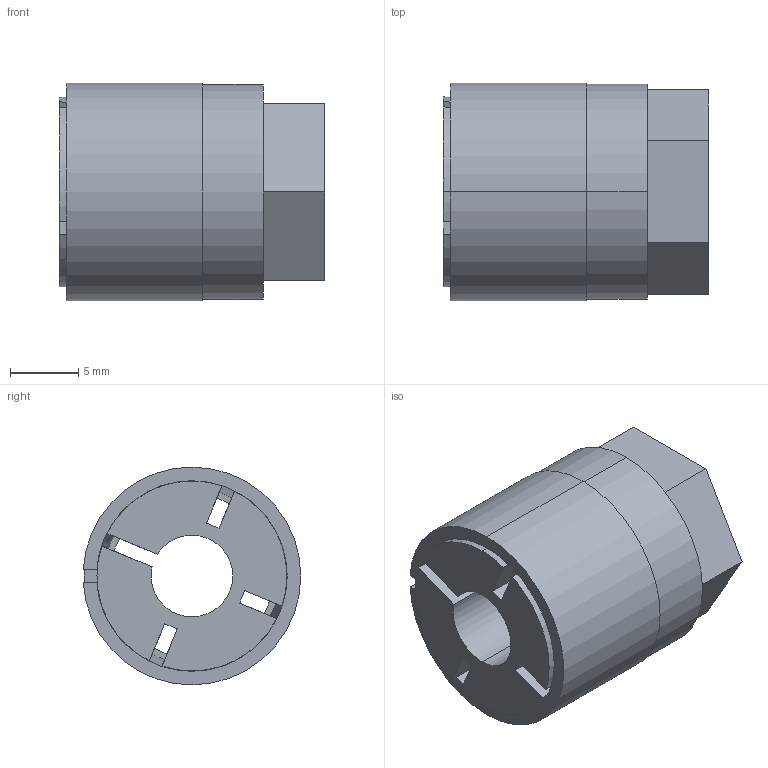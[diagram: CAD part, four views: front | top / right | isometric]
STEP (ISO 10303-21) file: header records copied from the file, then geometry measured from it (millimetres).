
FILE_DESCRIPTION (( 'STEP AP203' ), '1' );
FILE_NAME ('KBS 56 - 6 x 16.STEP', '2015-07-07T20:19:00', ( '' ), ( '' ), 'SwSTEP 2.0', 'SolidWorks 2010', '' );
FILE_SCHEMA (( 'CONFIG_CONTROL_DESIGN' ));
Length unit declared in the file: millimetre
Products named in the file (1): KBS 56 - 6 x 16
Bounding box: 19.5 x 15.98 x 16 mm (x, y, z)
Volume: 2798 mm3; surface area: 3660.3 mm2
Topology: 3 solids, 3 shells, 53 faces, 138 edges, 92 vertices
Faces by surface type: plane 30, cylinder 15, cone 8
Entity records: 1731 total; most frequent: CARTESIAN_POINT 320, DIRECTION 282, ORIENTED_EDGE 276, EDGE_CURVE 138, AXIS2_PLACEMENT_3D 100, VERTEX_POINT 92, LINE 82, VECTOR 82
